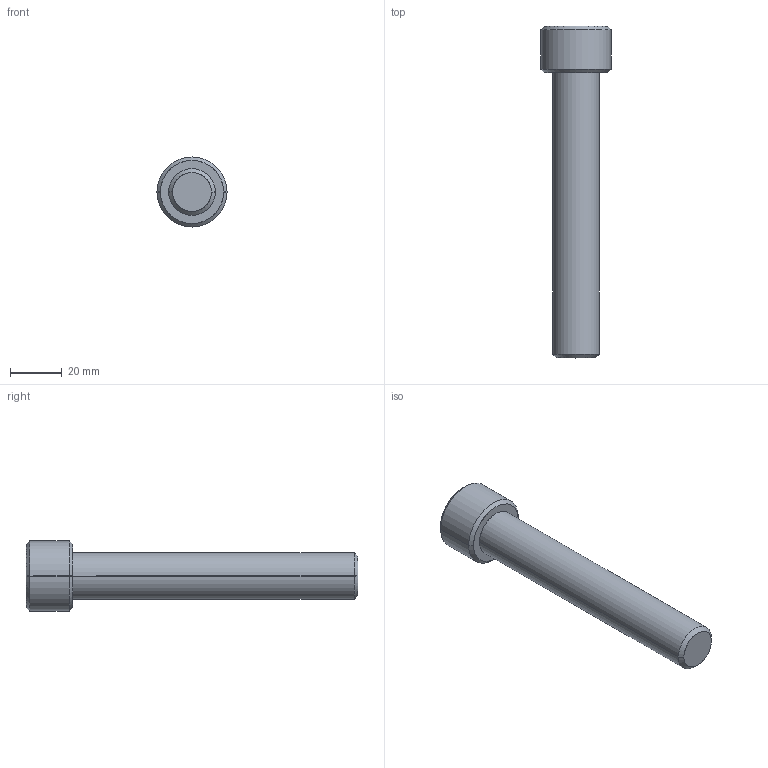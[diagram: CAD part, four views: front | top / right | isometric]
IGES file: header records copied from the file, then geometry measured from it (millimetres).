
Start section: SolidWorks IGES file using analytic representation for surfaces
Global section: file name: D:\Cleonir_arquivos\MT_15_07\Parafuso Allen Cabeça Cilindrica\CLM18110.igs; native system: SolidWorks 2013; preprocessor: SolidWorks 2013; author: Cleonir; date: 130730.130257; units: millimetre
Bounding box: 27 x 128 x 27 mm (x, y, z)
Surface area: 9267 mm2 (no closed solid volume)
Topology: 0 solids, 0 shells, 274 faces, 2340 edges, 2340 vertices
Faces by surface type: bspline 256, revolution 18
